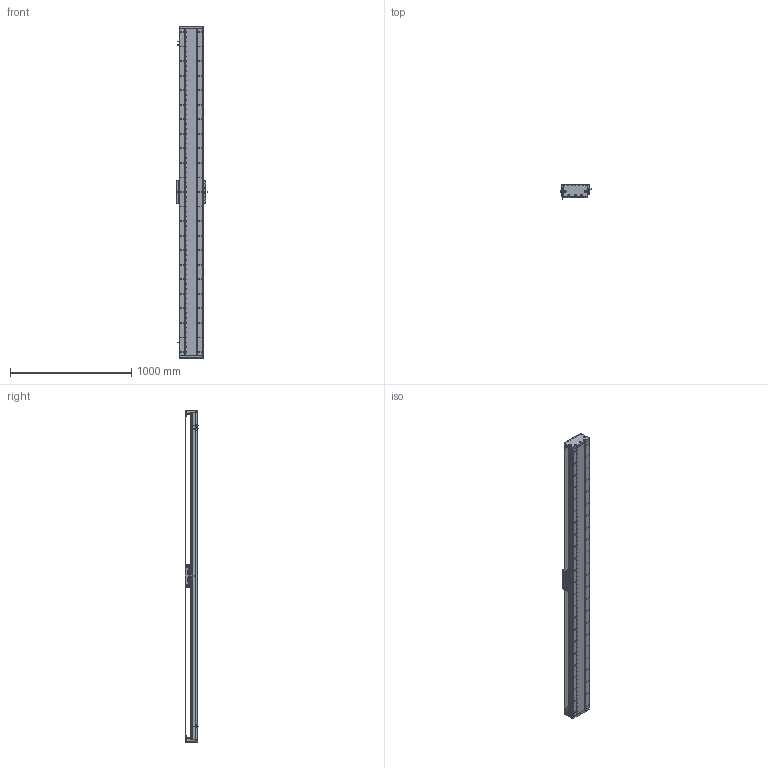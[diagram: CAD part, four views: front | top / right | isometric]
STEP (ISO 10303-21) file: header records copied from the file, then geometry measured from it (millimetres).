
FILE_DESCRIPTION (( 'STEP AP203' ), '1' );
FILE_NAME ('DA-C195-C2-T2460-C010-0.2 眻盄萇儂.STEP', '2025-08-15T01:13:24', ( '' ), ( '' ), 'SwSTEP 2.0', 'SolidWorks 2019', '' );
FILE_SCHEMA (( 'CONFIG_CONTROL_DESIGN' ));
Length unit declared in the file: millimetre
Products named in the file (15): DA-C195-C2-T2460-C010-0.2 眻盄萇儂; CU195-C2賑輸-俋楷; LMT黍杅芛; DA-C195-GD-DB-H-00 傷啣; DA195詩湍裔啣; DA165-GYP-00 光电感应片(默认); PM-T45ㄗ侂狟ㄘ; 葩璃 DA95-GT-T-00; DA195詩湍菜輸; DA195詩湍郪璃; DA95-HXJ-00 遣喳砎蝶; DA195詩湍嶺輸; MS200 棠掑喜S315-T1740; IU-CU195-L 菁釱絳寢; IU-CU195-L-00 菁釱(L2700)
Assembly tree (29 placements, depth 3):
  DA-C195-C2-T2460-C010-0.2 眻盄萇儂
    DA195詩湍郪璃
      DA195詩湍菜輸  x2
      DA195詩湍裔啣
      DA195詩湍嶺輸  x2
      DA95-HXJ-00 遣喳砎蝶  x8
      DA-C195-GD-DB-H-00 傷啣  x2
    IU-CU195-L 菁釱絳寢
      IU-CU195-L-00 菁釱(L2700)
      葩璃 DA95-GT-T-00  x4
    LMT黍杅芛
    MS200 棠掑喜S315-T1740
    PM-T45ㄗ侂狟ㄘ  x3
    DA165-GYP-00 光电感应片(默认)
    CU195-C2賑輸-俋楷
Bounding box: 248 x 115.45 x 2740 mm (x, y, z)
Volume: 15650310 mm3; surface area: 4638188.4 mm2
Topology: 66 solids, 130 shells, 4444 faces, 12475 edges, 7863 vertices
Faces by surface type: cylinder 2423, plane 1403, cone 530, torus 52, sphere 36
Entity records: 143527 total; most frequent: CARTESIAN_POINT 39350, ORIENTED_EDGE 21834, DIRECTION 20936, EDGE_CURVE 10917, AXIS2_PLACEMENT_3D 7869, VERTEX_POINT 7065, VECTOR 5198, LINE 5198
